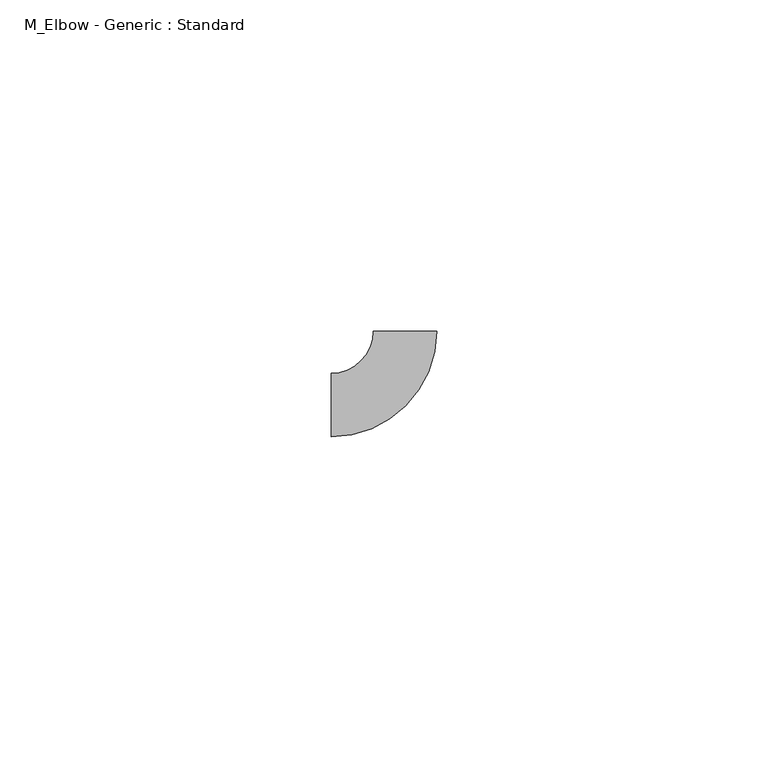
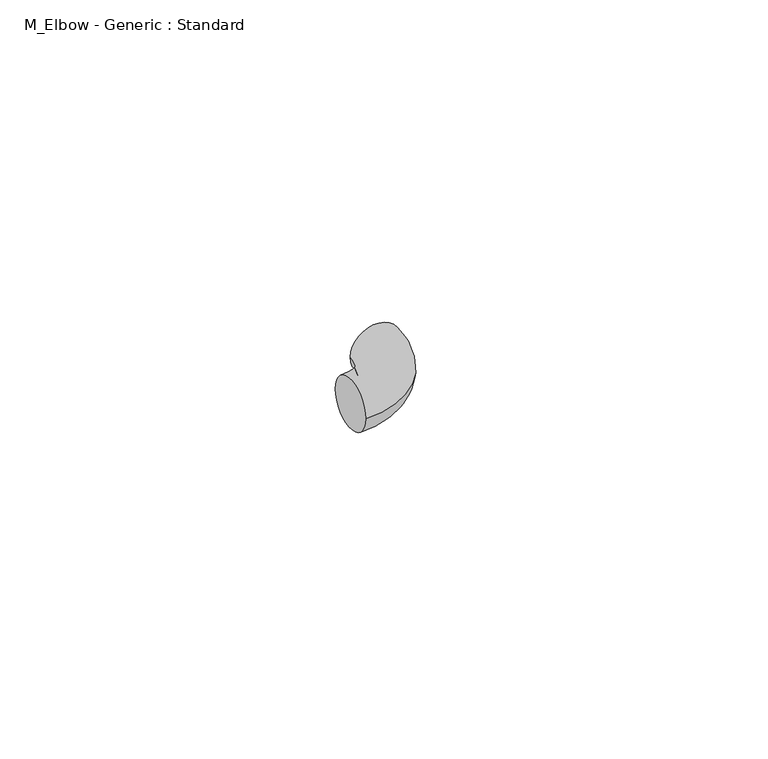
"""IFC4 building model written with IfcOpenShell, lengths in millimetres: pipe fitting geometry, M_Elbow - Generic : Standard."""

from ifc_helpers import new_model, si_unit, point, frame, origin, place, context, project, spatial, circle_curve, ellipse_curve, trimmed, source, transform, mapped, element, save
from ifc_brep_helpers import plane_surface, revolved_surface, advanced_brep


def m_elbow_generic_standard_f25111a3(model_context):
    return source(origin(), model_context, "Body", "AdvancedBrep", [
        advanced_brep(
        [(-11.1372187, -4.7875, 0.0), (-11.1372187, 4.7875, 0.0), (4.7877813, 11.1370978, 0.0), (-4.7872187, 11.1373396, 0.0)],
        [
            (0, 1, circle_curve(frame((-11.1372187, 0.0, 0.0), z_axis=(-1.0, 0.0, 0.0), x_axis=(0.0, 1.0, 0.0)), 4.7875)),
            (1, 0, circle_curve(frame((-11.1372187, 0.0, 0.0), z_axis=(-1.0, 0.0, 0.0), x_axis=(0.0, 1.0, 0.0)), 4.7875)),
            (2, 3, circle_curve(frame((0.0002813, 11.1372187, 0.0), z_axis=(2.5258459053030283e-05, 0.9999999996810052, 0.0), x_axis=(-0.9999999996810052, 2.5258459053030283e-05, 0.0)), 4.7875)),
            (3, 2, circle_curve(frame((0.0002813, 11.1372187, 0.0), z_axis=(2.5258459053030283e-05, 0.9999999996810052, 0.0), x_axis=(-0.9999999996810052, 2.5258459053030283e-05, 0.0)), 4.7875)),
            (3, 1, circle_curve(frame((-11.1372187, 11.1375, 0.0), z_axis=(0.0, 0.0, -1.0), x_axis=(0.0, -1.0, 0.0)), 6.35)),
            (0, 2, circle_curve(frame((-11.1372187, 11.1375, 0.0), z_axis=(0.0, 0.0, 1.0), x_axis=(0.0, -1.0, 0.0)), 15.925)),
        ],
        [
            plane_surface(frame((-11.1372187, 0.0, 0.0), z_axis=(-1.0, 0.0, 0.0), x_axis=(0.0, 0.0, 1.0))),
            plane_surface(frame((0.0002813, 11.1372187, 0.0), z_axis=(2.525845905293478e-05, 0.9999999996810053, 0.0), x_axis=(0.0, 0.0, 1.0))),
            revolved_surface(trimmed(ellipse_curve(frame((-11.1372187, 0.0, 0.0), z_axis=(-1.0, 0.0, 0.0), x_axis=(0.0, 1.0, 0.0)), 4.7875, 4.7875), [point((-11.1372187, -4.7875, 0.0))], [point((-11.1372187, 4.7875, 0.0))], True, "CARTESIAN"), (-11.1372187, 11.1375, 0.0), (0.0, 0.0, 1.0)),
            revolved_surface(trimmed(ellipse_curve(frame((-11.1372187, 0.0, 0.0), z_axis=(-1.0, 0.0, 0.0), x_axis=(0.0, 1.0, 0.0)), 4.7875, 4.7875), [point((-11.1372187, 4.7875, 0.0))], [point((-11.1372187, -4.7875, 0.0))], True, "CARTESIAN"), (-11.1372187, 11.1375, 0.0), (0.0, 0.0, 1.0)),
        ],
        [
            (0, [[1, 2]]),
            (1, [[3, 4]]),
            (2, [[5, -1, 6, -4]]),
            (3, [[-6, -2, -5, -3]]),
        ],
    ),
    ])


if __name__ == "__main__":
    model = new_model("IFC4")
    model_context = context("Model", 3, world=origin())
    ifc_project = project(units=[si_unit("LENGTHUNIT", "METRE", prefix="MILLI")], contexts=[model_context])
    site = spatial("IfcSite", under=ifc_project)
    building = spatial("IfcBuilding", under=site)
    placement = place(None, origin())
    m_elbow_generic_standard_shape = m_elbow_generic_standard_f25111a3(model_context)
    element("IfcPipeFitting", 1, ObjectType="M_Elbow - Generic : Standard", at=placement, inside=building, context=model_context, shape_type="MappedRepresentation", body=[
        mapped(m_elbow_generic_standard_shape, transform((0.0, 0.0, 0.0), x_axis=(1.0, 0.0, 0.0), y_axis=(0.0, 1.0, 0.0), z_axis=(0.0, 0.0, 1.0))),
    ])
    save(model, "model.ifc")
